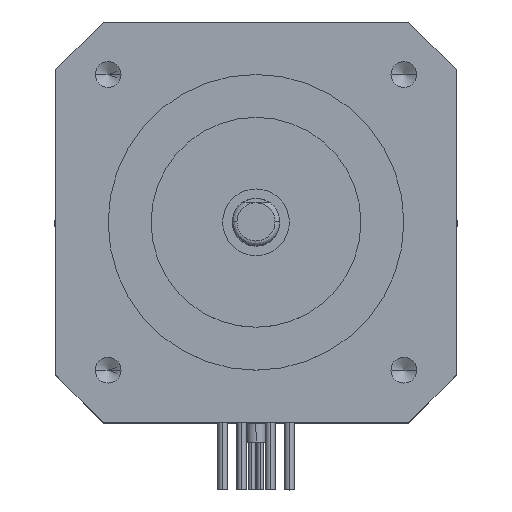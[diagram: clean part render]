
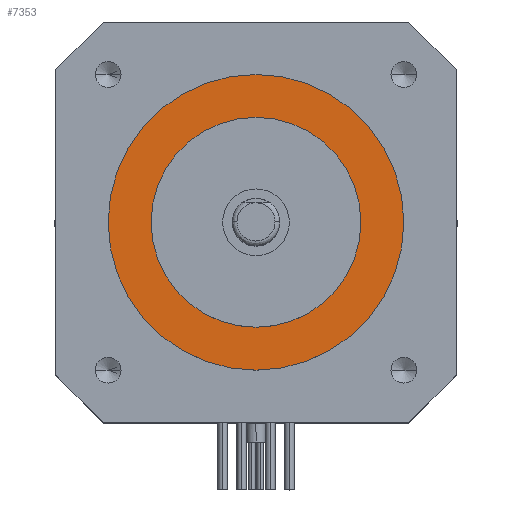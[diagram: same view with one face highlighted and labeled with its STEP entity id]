
A CAD part, top view. The second image highlights one B-rep face of the part: STEP entity #7353.
In plain terms, the highlighted planar face has unit normal (0, 0, 1).
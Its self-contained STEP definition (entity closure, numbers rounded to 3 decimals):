
#189 = PLANE ( 'NONE',  #7516 ) ;
#399 = AXIS2_PLACEMENT_3D ( 'NONE', #6051, #7405, #8775 ) ;
#784 = DIRECTION ( 'NONE',  ( 0., 0., 1. ) ) ;
#1191 = DIRECTION ( 'NONE',  ( 1., 0., 0. ) ) ;
#1196 = VERTEX_POINT ( 'NONE', #2174 ) ;
#1308 = CARTESIAN_POINT ( 'NONE',  ( 11., 0., -0.1 ) ) ;
#1600 = FACE_BOUND ( 'NONE', #2116, .T. ) ;
#1774 = ORIENTED_EDGE ( 'NONE', *, *, #6722, .T. ) ;
#1821 = DIRECTION ( 'NONE',  ( 0., 0., 1. ) ) ;
#2056 = CARTESIAN_POINT ( 'NONE',  ( 0., 0., -0.1 ) ) ;
#2116 = EDGE_LOOP ( 'NONE', ( #2322, #7074 ) ) ;
#2174 = CARTESIAN_POINT ( 'NONE',  ( -11., 0., -0.1 ) ) ;
#2234 = CARTESIAN_POINT ( 'NONE',  ( 0., 0., -0.1 ) ) ;
#2297 = ORIENTED_EDGE ( 'NONE', *, *, #8284, .T. ) ;
#2322 = ORIENTED_EDGE ( 'NONE', *, *, #7623, .F. ) ;
#2901 = DIRECTION ( 'NONE',  ( -1., 0., 0. ) ) ;
#2937 = AXIS2_PLACEMENT_3D ( 'NONE', #8469, #784, #8439 ) ;
#3208 = CARTESIAN_POINT ( 'NONE',  ( -15.5, 0., -0.1 ) ) ;
#3627 = EDGE_LOOP ( 'NONE', ( #1774, #2297 ) ) ;
#3878 = CIRCLE ( 'NONE', #7566, 15.5 ) ;
#4298 = AXIS2_PLACEMENT_3D ( 'NONE', #2056, #5586, #6255 ) ;
#4795 = VERTEX_POINT ( 'NONE', #3208 ) ;
#5586 = DIRECTION ( 'NONE',  ( 0., 0., 1. ) ) ;
#5793 = DIRECTION ( 'NONE',  ( 0., 0., -1. ) ) ;
#5943 = CARTESIAN_POINT ( 'NONE',  ( 15.5, 0., -0.1 ) ) ;
#5984 = CARTESIAN_POINT ( 'NONE',  ( 0., 0., -0.1 ) ) ;
#6051 = CARTESIAN_POINT ( 'NONE',  ( 0., 0., -0.1 ) ) ;
#6255 = DIRECTION ( 'NONE',  ( -1., 0., 0. ) ) ;
#6722 = EDGE_CURVE ( 'NONE', #8521, #4795, #3878, .T. ) ;
#7074 = ORIENTED_EDGE ( 'NONE', *, *, #8913, .F. ) ;
#7353 = ADVANCED_FACE ( 'NONE', ( #1600, #7453 ), #189, .F. ) ;
#7405 = DIRECTION ( 'NONE',  ( 0., 0., 1. ) ) ;
#7453 = FACE_OUTER_BOUND ( 'NONE', #3627, .T. ) ;
#7516 = AXIS2_PLACEMENT_3D ( 'NONE', #2234, #5793, #2901 ) ;
#7566 = AXIS2_PLACEMENT_3D ( 'NONE', #5984, #1821, #1191 ) ;
#7623 = EDGE_CURVE ( 'NONE', #1196, #8160, #8523, .T. ) ;
#8160 = VERTEX_POINT ( 'NONE', #1308 ) ;
#8284 = EDGE_CURVE ( 'NONE', #4795, #8521, #8700, .T. ) ;
#8376 = CIRCLE ( 'NONE', #4298, 11. ) ;
#8439 = DIRECTION ( 'NONE',  ( 1., 0., 0. ) ) ;
#8469 = CARTESIAN_POINT ( 'NONE',  ( 0., 0., -0.1 ) ) ;
#8521 = VERTEX_POINT ( 'NONE', #5943 ) ;
#8523 = CIRCLE ( 'NONE', #399, 11. ) ;
#8700 = CIRCLE ( 'NONE', #2937, 15.5 ) ;
#8775 = DIRECTION ( 'NONE',  ( -1., 0., 0. ) ) ;
#8913 = EDGE_CURVE ( 'NONE', #8160, #1196, #8376, .T. ) ;
